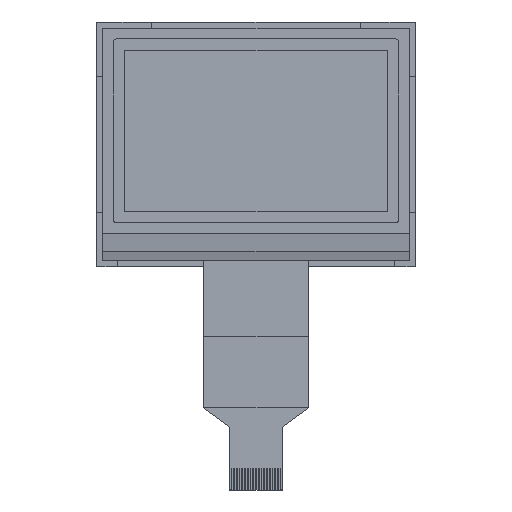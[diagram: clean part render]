
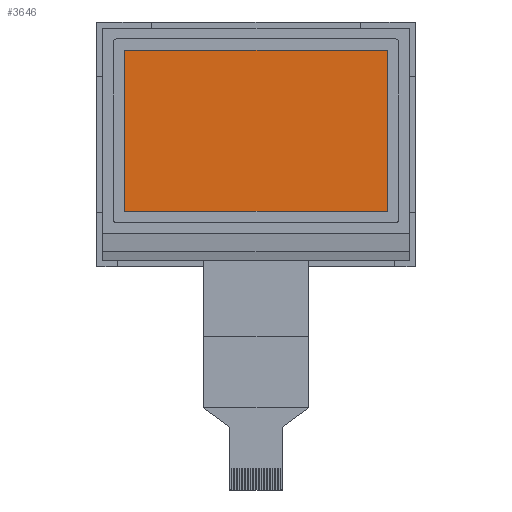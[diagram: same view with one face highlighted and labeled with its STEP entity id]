
A CAD part, top view. The second image highlights one B-rep face of the part: STEP entity #3646.
In plain terms, the highlighted planar face has unit normal (0, 0, 1).
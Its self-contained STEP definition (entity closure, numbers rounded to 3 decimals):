
#11 = LINE ( 'NONE', #4026, #1671 ) ;
#720 = DIRECTION ( 'NONE',  ( 0., 1., 0. ) ) ;
#1186 = EDGE_LOOP ( 'NONE', ( #1966, #6292, #6126, #8637 ) ) ;
#1329 = VERTEX_POINT ( 'NONE', #2122 ) ;
#1436 = DIRECTION ( 'NONE',  ( 1., 0., 0. ) ) ;
#1570 = DIRECTION ( 'NONE',  ( 0., 0., 1. ) ) ;
#1667 = LINE ( 'NONE', #8383, #2333 ) ;
#1671 = VECTOR ( 'NONE', #720, 1000. ) ;
#1696 = CARTESIAN_POINT ( 'NONE',  ( 0., 0., 1.8 ) ) ;
#1966 = ORIENTED_EDGE ( 'NONE', *, *, #5708, .F. ) ;
#2102 = CARTESIAN_POINT ( 'NONE',  ( 0., 14.71, 1.8 ) ) ;
#2122 = CARTESIAN_POINT ( 'NONE',  ( 23.99, -14.71, 1.8 ) ) ;
#2154 = DIRECTION ( 'NONE',  ( 0., -1., 0. ) ) ;
#2188 = VERTEX_POINT ( 'NONE', #3692 ) ;
#2333 = VECTOR ( 'NONE', #6359, 1000. ) ;
#3112 = CARTESIAN_POINT ( 'NONE',  ( 23.99, 14.71, 1.8 ) ) ;
#3354 = LINE ( 'NONE', #2102, #8324 ) ;
#3486 = PLANE ( 'NONE',  #3864 ) ;
#3595 = EDGE_CURVE ( 'NONE', #2188, #4738, #3354, .T. ) ;
#3646 = ADVANCED_FACE ( 'NONE', ( #4651 ), #3486, .T. ) ;
#3692 = CARTESIAN_POINT ( 'NONE',  ( -23.99, 14.71, 1.8 ) ) ;
#3864 = AXIS2_PLACEMENT_3D ( 'NONE', #1696, #1570, #7498 ) ;
#4026 = CARTESIAN_POINT ( 'NONE',  ( -23.99, 0., 1.8 ) ) ;
#4651 = FACE_OUTER_BOUND ( 'NONE', #1186, .T. ) ;
#4738 = VERTEX_POINT ( 'NONE', #3112 ) ;
#5708 = EDGE_CURVE ( 'NONE', #8024, #2188, #11, .T. ) ;
#6126 = ORIENTED_EDGE ( 'NONE', *, *, #7387, .F. ) ;
#6159 = LINE ( 'NONE', #6689, #6244 ) ;
#6244 = VECTOR ( 'NONE', #2154, 1000. ) ;
#6292 = ORIENTED_EDGE ( 'NONE', *, *, #8525, .F. ) ;
#6314 = CARTESIAN_POINT ( 'NONE',  ( -23.99, -14.71, 1.8 ) ) ;
#6359 = DIRECTION ( 'NONE',  ( -1., 0., 0. ) ) ;
#6689 = CARTESIAN_POINT ( 'NONE',  ( 23.99, 0., 1.8 ) ) ;
#7387 = EDGE_CURVE ( 'NONE', #4738, #1329, #6159, .T. ) ;
#7498 = DIRECTION ( 'NONE',  ( 1., 0., 0. ) ) ;
#8024 = VERTEX_POINT ( 'NONE', #6314 ) ;
#8324 = VECTOR ( 'NONE', #1436, 1000. ) ;
#8383 = CARTESIAN_POINT ( 'NONE',  ( 0., -14.71, 1.8 ) ) ;
#8525 = EDGE_CURVE ( 'NONE', #1329, #8024, #1667, .T. ) ;
#8637 = ORIENTED_EDGE ( 'NONE', *, *, #3595, .F. ) ;
